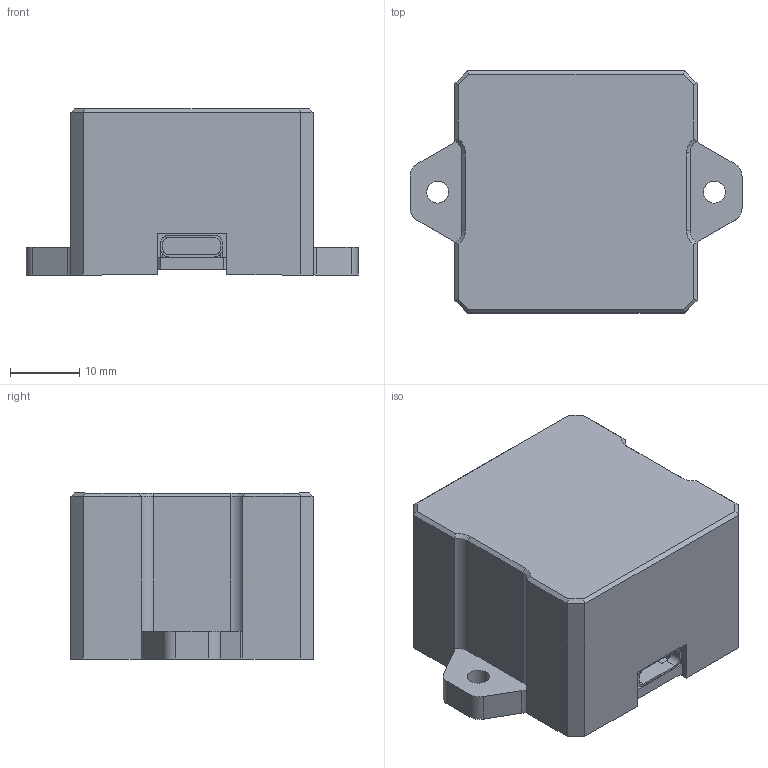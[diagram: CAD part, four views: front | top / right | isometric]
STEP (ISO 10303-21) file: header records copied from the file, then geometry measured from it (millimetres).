
FILE_DESCRIPTION(/* description */ (''),/* implementation_level */ '2;1');
FILE_NAME(/* name */ 'TRANSD~2',/* time_stamp */ '2025-11-21T01:02:30+08:00',/* author */ (''),/* organization */ (''),/* preprocessor_version */ 'ST-DEVELOPER v15',/* originating_system */ '',/* authorisation */ '');
FILE_SCHEMA (('AUTOMOTIVE_DESIGN'));
Length unit declared in the file: millimetre
Products named in the file (1): Document
Bounding box: 48 x 35 x 24 mm (x, y, z)
Surface area: 9564.3 mm2 (no closed solid volume)
Topology: 0 solids, 1 shells, 165 faces, 549 edges, 380 vertices
Faces by surface type: plane 114, bspline 51
Entity records: 6119 total; most frequent: CARTESIAN_POINT 2856, ORIENTED_EDGE 987, EDGE_CURVE 549, B_SPLINE_CURVE_WITH_KNOTS 433, VERTEX_POINT 380, EDGE_LOOP 191, ADVANCED_FACE 165, FACE_OUTER_BOUND 165
